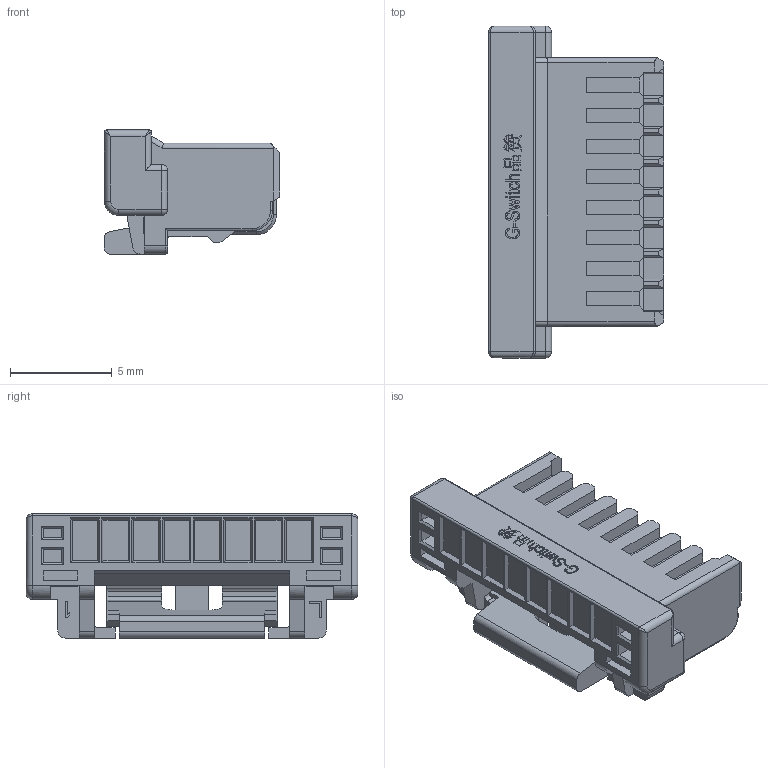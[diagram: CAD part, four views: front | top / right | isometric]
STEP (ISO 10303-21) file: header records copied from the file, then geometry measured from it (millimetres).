
FILE_DESCRIPTION (( 'STEP AP203' ), '1' );
FILE_NAME ('GT-A1515HM-108W01.STEP', '2024-09-25T10:33:04', ( '' ), ( '' ), 'SwSTEP 2.0', 'SolidWorks 2020', '' );
FILE_SCHEMA (( 'CONFIG_CONTROL_DESIGN' ));
Length unit declared in the file: millimetre
Products named in the file (1): GT-A1515HM-108W01
Bounding box: 8.6 x 16.3 x 6.1 mm (x, y, z)
Volume: 359.5 mm3; surface area: 857.6 mm2
Topology: 1 solids, 1 shells, 795 faces, 2155 edges, 1377 vertices
Faces by surface type: plane 608, cylinder 90, bspline 75, torus 12, sphere 6, cone 4
Entity records: 28496 total; most frequent: CARTESIAN_POINT 8960, ORIENTED_EDGE 4298, DIRECTION 3545, EDGE_CURVE 2149, LINE 1821, VECTOR 1821, VERTEX_POINT 1377, AXIS2_PLACEMENT_3D 862
